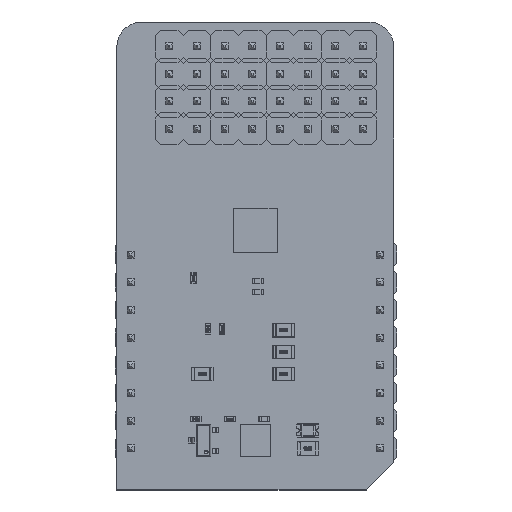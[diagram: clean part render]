
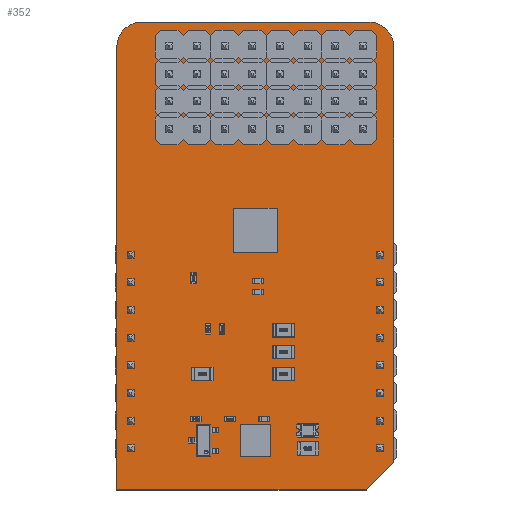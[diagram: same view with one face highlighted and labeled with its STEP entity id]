
A CAD part, top view. The second image highlights one B-rep face of the part: STEP entity #352.
In plain terms, the highlighted planar face has unit normal (0, 0, 1).
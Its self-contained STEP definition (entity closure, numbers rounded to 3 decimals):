
#123 = VERTEX_POINT('',#124);
#124 = CARTESIAN_POINT('',(-1.27,-3.81,0.));
#130 = EDGE_CURVE('',#123,#131,#133,.T.);
#131 = VERTEX_POINT('',#132);
#132 = CARTESIAN_POINT('',(-1.27,36.83,0.));
#133 = LINE('',#134,#135);
#134 = CARTESIAN_POINT('',(-1.27,-3.81,0.));
#135 = VECTOR('',#136,1.);
#136 = DIRECTION('',(0.,1.,0.));
#161 = EDGE_CURVE('',#131,#162,#164,.T.);
#162 = VERTEX_POINT('',#163);
#163 = CARTESIAN_POINT('',(1.016,39.116,0.));
#164 = CIRCLE('',#165,2.288);
#165 = AXIS2_PLACEMENT_3D('',#166,#167,#168);
#166 = CARTESIAN_POINT('',(1.018,36.828,0.));
#167 = DIRECTION('',(0.,0.,-1.));
#168 = DIRECTION('',(-1.,0.001,0.));
#194 = EDGE_CURVE('',#162,#195,#197,.T.);
#195 = VERTEX_POINT('',#196);
#196 = CARTESIAN_POINT('',(21.844,39.116,0.));
#197 = LINE('',#198,#199);
#198 = CARTESIAN_POINT('',(1.016,39.116,0.));
#199 = VECTOR('',#200,1.);
#200 = DIRECTION('',(1.,0.,0.));
#225 = EDGE_CURVE('',#195,#226,#228,.T.);
#226 = VERTEX_POINT('',#227);
#227 = CARTESIAN_POINT('',(24.13,36.83,0.));
#228 = CIRCLE('',#229,2.288);
#229 = AXIS2_PLACEMENT_3D('',#230,#231,#232);
#230 = CARTESIAN_POINT('',(21.842,36.828,0.));
#231 = DIRECTION('',(0.,0.,-1.));
#232 = DIRECTION('',(0.001,1.,0.));
#258 = EDGE_CURVE('',#226,#259,#261,.T.);
#259 = VERTEX_POINT('',#260);
#260 = CARTESIAN_POINT('',(24.13,-1.27,0.));
#261 = LINE('',#262,#263);
#262 = CARTESIAN_POINT('',(24.13,36.83,0.));
#263 = VECTOR('',#264,1.);
#264 = DIRECTION('',(0.,-1.,0.));
#289 = EDGE_CURVE('',#259,#290,#292,.T.);
#290 = VERTEX_POINT('',#291);
#291 = CARTESIAN_POINT('',(21.59,-3.81,0.));
#292 = LINE('',#293,#294);
#293 = CARTESIAN_POINT('',(24.13,-1.27,0.));
#294 = VECTOR('',#295,1.);
#295 = DIRECTION('',(-0.707,-0.707,0.));
#320 = EDGE_CURVE('',#290,#123,#321,.T.);
#321 = LINE('',#322,#323);
#322 = CARTESIAN_POINT('',(21.59,-3.81,0.));
#323 = VECTOR('',#324,1.);
#324 = DIRECTION('',(-1.,0.,0.));
#352 = ADVANCED_FACE('',(#353),#362,.T.);
#353 = FACE_BOUND('',#354,.F.);
#354 = EDGE_LOOP('',(#355,#356,#357,#358,#359,#360,#361));
#355 = ORIENTED_EDGE('',*,*,#130,.T.);
#356 = ORIENTED_EDGE('',*,*,#161,.T.);
#357 = ORIENTED_EDGE('',*,*,#194,.T.);
#358 = ORIENTED_EDGE('',*,*,#225,.T.);
#359 = ORIENTED_EDGE('',*,*,#258,.T.);
#360 = ORIENTED_EDGE('',*,*,#289,.T.);
#361 = ORIENTED_EDGE('',*,*,#320,.T.);
#362 = PLANE('',#363);
#363 = AXIS2_PLACEMENT_3D('',#364,#365,#366);
#364 = CARTESIAN_POINT('',(-1.27,-3.81,0.));
#365 = DIRECTION('',(0.,0.,1.));
#366 = DIRECTION('',(1.,0.,0.));
